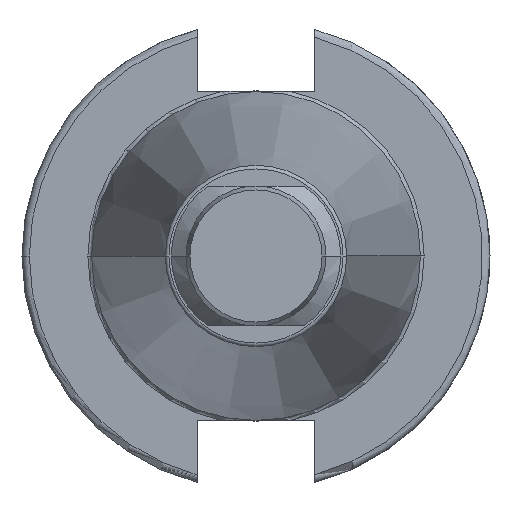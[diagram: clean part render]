
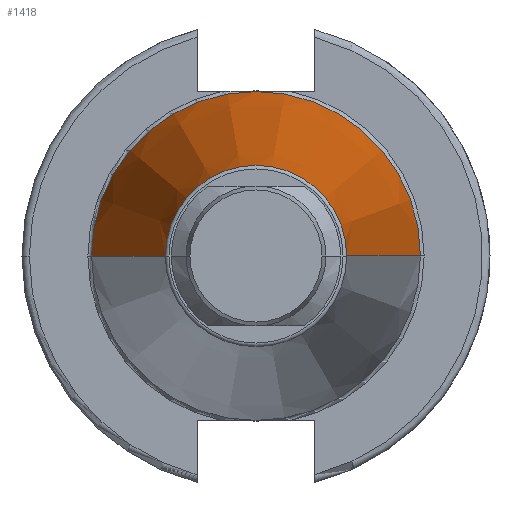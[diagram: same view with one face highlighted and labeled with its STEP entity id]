
A CAD part, left-side view. The second image highlights one B-rep face of the part: STEP entity #1418.
In plain terms, the highlighted conical face has half-angle 8.3 degrees and reference radius 22.33 mm.
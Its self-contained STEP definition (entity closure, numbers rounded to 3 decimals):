
#38 = CARTESIAN_POINT ( 'NONE',  ( 95.1, 22.33, 0. ) ) ;
#86 = DIRECTION ( 'NONE',  ( 0., 1., 0. ) ) ;
#216 = FACE_OUTER_BOUND ( 'NONE', #1282, .T. ) ;
#225 = ORIENTED_EDGE ( 'NONE', *, *, #1722, .F. ) ;
#307 = VERTEX_POINT ( 'NONE', #2010 ) ;
#405 = CARTESIAN_POINT ( 'NONE',  ( 26.428, 0., 0. ) ) ;
#435 = AXIS2_PLACEMENT_3D ( 'NONE', #938, #927, #950 ) ;
#489 = CARTESIAN_POINT ( 'NONE',  ( 26.428, -12.312, 0. ) ) ;
#572 = ORIENTED_EDGE ( 'NONE', *, *, #1580, .F. ) ;
#624 = CONICAL_SURFACE ( 'NONE', #435, 22.33, 0.145 ) ;
#661 = LINE ( 'NONE', #1348, #1151 ) ;
#787 = VECTOR ( 'NONE', #917, 1000. ) ;
#829 = VERTEX_POINT ( 'NONE', #2117 ) ;
#903 = CARTESIAN_POINT ( 'NONE',  ( 95.1, -22.33, 0. ) ) ;
#917 = DIRECTION ( 'NONE',  ( 0.99, -0.144, 0. ) ) ;
#927 = DIRECTION ( 'NONE',  ( 1., 0., 0. ) ) ;
#934 = ORIENTED_EDGE ( 'NONE', *, *, #2391, .T. ) ;
#938 = CARTESIAN_POINT ( 'NONE',  ( 95.1, 0., 0. ) ) ;
#950 = DIRECTION ( 'NONE',  ( 0., 1., 0. ) ) ;
#966 = ORIENTED_EDGE ( 'NONE', *, *, #1859, .T. ) ;
#1151 = VECTOR ( 'NONE', #1298, 1000. ) ;
#1193 = AXIS2_PLACEMENT_3D ( 'NONE', #405, #1893, #2639 ) ;
#1282 = EDGE_LOOP ( 'NONE', ( #934, #966, #225, #572 ) ) ;
#1298 = DIRECTION ( 'NONE',  ( 0.99, 0.144, 0. ) ) ;
#1348 = CARTESIAN_POINT ( 'NONE',  ( 95.1, 22.33, 0. ) ) ;
#1418 = ADVANCED_FACE ( 'NONE', ( #216 ), #624, .T. ) ;
#1569 = LINE ( 'NONE', #903, #787 ) ;
#1580 = EDGE_CURVE ( 'NONE', #829, #2328, #661, .T. ) ;
#1722 = EDGE_CURVE ( 'NONE', #2328, #307, #2370, .T. ) ;
#1859 = EDGE_CURVE ( 'NONE', #2650, #307, #1569, .T. ) ;
#1893 = DIRECTION ( 'NONE',  ( 1., 0., 0. ) ) ;
#2010 = CARTESIAN_POINT ( 'NONE',  ( 95.1, -22.33, 0. ) ) ;
#2117 = CARTESIAN_POINT ( 'NONE',  ( 26.428, 12.312, 0. ) ) ;
#2184 = CIRCLE ( 'NONE', #1193, 12.312 ) ;
#2216 = AXIS2_PLACEMENT_3D ( 'NONE', #2552, #2585, #86 ) ;
#2328 = VERTEX_POINT ( 'NONE', #38 ) ;
#2370 = CIRCLE ( 'NONE', #2216, 22.33 ) ;
#2391 = EDGE_CURVE ( 'NONE', #829, #2650, #2184, .T. ) ;
#2552 = CARTESIAN_POINT ( 'NONE',  ( 95.1, 0., 0. ) ) ;
#2585 = DIRECTION ( 'NONE',  ( 1., 0., 0. ) ) ;
#2639 = DIRECTION ( 'NONE',  ( 0., 1., 0. ) ) ;
#2650 = VERTEX_POINT ( 'NONE', #489 ) ;
